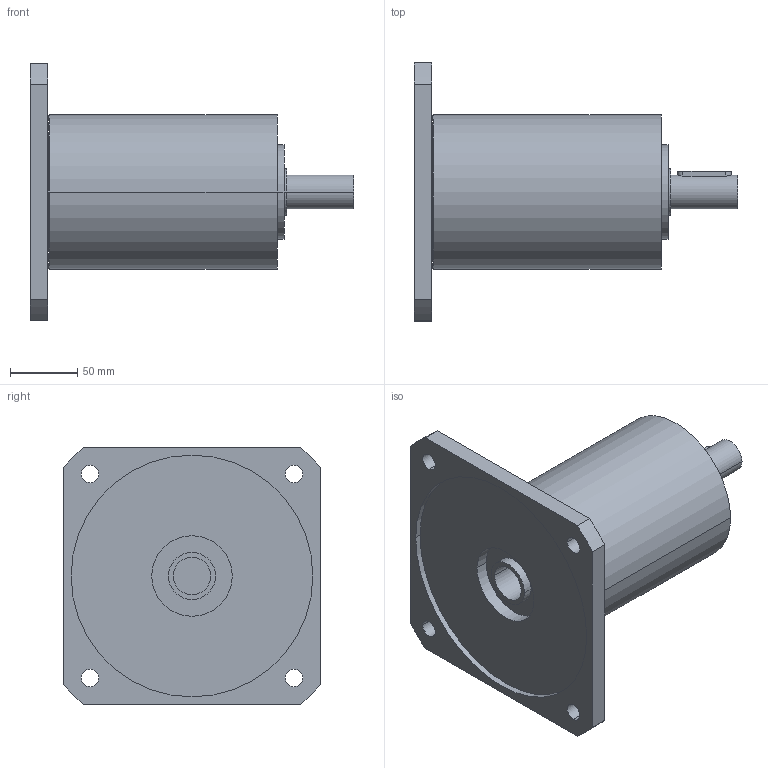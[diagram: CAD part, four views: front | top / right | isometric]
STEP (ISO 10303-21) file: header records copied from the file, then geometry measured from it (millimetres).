
FILE_DESCRIPTION(('CoCreate Modeling STEP Export'),'2;1');
FILE_NAME('GPR125_ig-9-12-16-20-28-35_25_B14_28_P09.stp','2014-08-26T14:11:38',(''),(''),'CoCreate Modeling STEP processor for AP214 (Solid Model)','CoCreate Modeling 16.00C 25-Feb-2009 (C) Parametric Technology GmbH','');
FILE_SCHEMA(('AUTOMOTIVE_DESIGN { 1 0 10303 214 1 1 1 1 }'));
Length unit declared in the file: millimetre
Products named in the file (2): GPR125_ig-9-12-16-20-28-35_25_B14_28_P09
Assembly tree (1 placements, depth 2):
  GPR125_ig-9-12-16-20-28-35_25_B14_28_P09
    GPR125_ig-9-12-16-20-28-35_25_B14_28_P09
Bounding box: 241 x 192 x 192 mm (x, y, z)
Volume: 2108121.8 mm3; surface area: 176220.6 mm2
Topology: 1 solids, 1 shells, 68 faces, 188 edges, 134 vertices
Faces by surface type: cylinder 42, plane 22, cone 4
Entity records: 1928 total; most frequent: ORIENTED_EDGE 372, CARTESIAN_POINT 363, DIRECTION 258, EDGE_CURVE 186, VERTEX_POINT 134, AXIS2_PLACEMENT_3D 97, EDGE_LOOP 90, FACE_OUTER_BOUND 68
